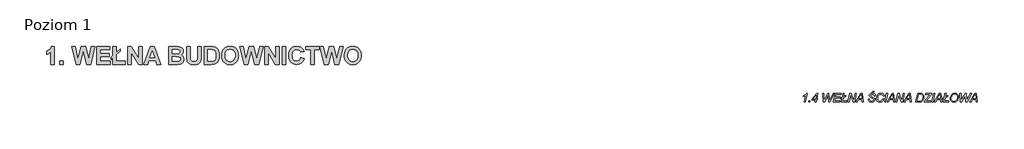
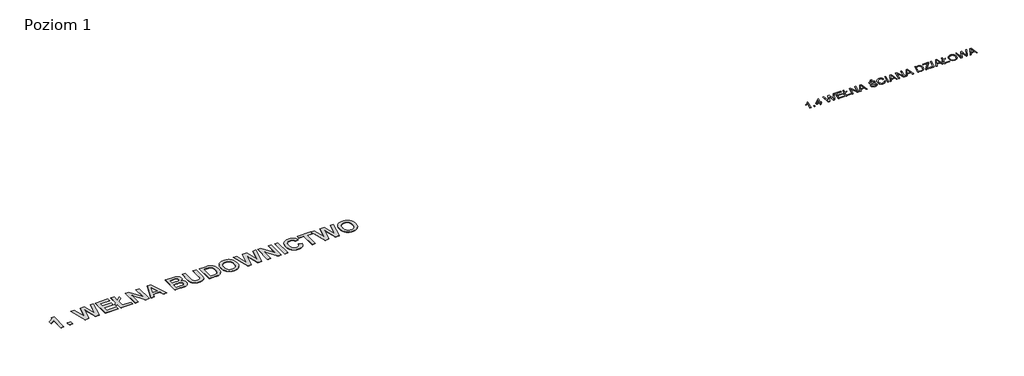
# One storey, incomplete: 2 proxies.
"""IFC4 building model written with IfcOpenShell, lengths in millimetres."""

import ifcopenshell
import ifcopenshell.guid

model = None  # the IFC model being written
_history = None  # IfcOwnerHistory: only IFC2X3 demands one
_inside = {}  # id of a spatial element -> (the spatial element, [elements in it])
_under = {}  # id of a project, library or spatial element -> (it, [spatial elements below it])
_declared = {}  # id of a project -> (the project, [libraries it declares])
_typed = {}  # id of a type object -> (the type object, [elements of that type])
_made_of = {}  # id of a material, layer set ... -> (it, [elements and type objects made of it])


def new_model(schema):
    """Start an empty IFC model of exactly this schema.

    Asked for "IFC4X3", IfcOpenShell would pick the latest addendum, in which some entities
    have other attributes; the version numbers below select the first issue.
    IFC2X3 requires an IfcOwnerHistory on every rooted entity: one is made here for all.
    """
    global model, _history
    if schema == "IFC4X3":
        model = ifcopenshell.file(schema_version=(4, 3, 0, 0))
    else:
        model = ifcopenshell.file(schema=schema)
    _inside.clear()
    _under.clear()
    _declared.clear()
    _typed.clear()
    _made_of.clear()
    _history = None
    if model.schema == "IFC2X3":
        org = make("IfcOrganization", Name="unknown")
        user = make(
            "IfcPersonAndOrganization",
            ThePerson=make("IfcPerson", FamilyName="unknown"),
            TheOrganization=org,
        )
        app = make(
            "IfcApplication",
            ApplicationDeveloper=org,
            Version="unknown",
            ApplicationFullName="unknown",
            ApplicationIdentifier="unknown",
        )
        _history = make(
            "IfcOwnerHistory",
            OwningUser=user,
            OwningApplication=app,
            ChangeAction="ADDED",
            CreationDate=0,
        )
    return model


def make(cls, **values):
    """One entity of the class cls with the attributes given. An attribute that is None is left unset."""
    return model.create_entity(
        cls, **{name: value for name, value in values.items() if value is not None}
    )


def rooted(cls, **values):
    """An entity with a GlobalId (a new one), such as an element, a storey or a relation."""
    return make(cls, GlobalId=ifcopenshell.guid.new(), OwnerHistory=_history, **values)


def si_unit(unit_type, name, prefix=None):
    """IfcSIUnit, for example si_unit("LENGTHUNIT", "METRE", prefix="MILLI")."""
    return make("IfcSIUnit", UnitType=unit_type, Prefix=prefix, Name=name)


def assignment(units):
    """IfcUnitAssignment: the units of a project."""
    return None if units is None else make("IfcUnitAssignment", Units=units)


def point(xyz):
    """IfcCartesianPoint."""
    return None if xyz is None else make("IfcCartesianPoint", Coordinates=xyz)


def direction(xyz):
    """IfcDirection."""
    return None if xyz is None else make("IfcDirection", DirectionRatios=xyz)


def frame(location, z_axis=None, x_axis=None):
    """IfcAxis2Placement3D, a coordinate frame: its origin and axes. An axis left out is left unset."""
    return make(
        "IfcAxis2Placement3D",
        Location=point(location),
        Axis=direction(z_axis),
        RefDirection=direction(x_axis),
    )


def origin():
    """The frame at (0, 0, 0) with its axes left unset."""
    return frame((0.0, 0.0, 0.0))


def origin_with_axes():
    """The frame at (0, 0, 0) with the z axis (0, 0, 1) and the x axis (1, 0, 0) written out."""
    return frame((0.0, 0.0, 0.0), z_axis=(0.0, 0.0, 1.0), x_axis=(1.0, 0.0, 0.0))


def place(relative_to, where):
    """IfcLocalPlacement: puts the frame where relative to a parent placement (None: the world)."""
    return make(
        "IfcLocalPlacement", PlacementRelTo=relative_to, RelativePlacement=where
    )


def context(
    kind, dimensions, precision=None, world=None, true_north=None, identifier=None
):
    """IfcGeometricRepresentationContext, for example the 3D "Model" context."""
    return make(
        "IfcGeometricRepresentationContext",
        ContextIdentifier=identifier,
        ContextType=kind,
        CoordinateSpaceDimension=dimensions,
        Precision=precision,
        WorldCoordinateSystem=world,
        TrueNorth=true_north,
    )


def project(units=None, contexts=None):
    """IfcProject with its units and contexts."""
    return rooted(
        "IfcProject",
        Name="project",
        RepresentationContexts=contexts,
        UnitsInContext=assignment(units),
    )


def spatial(cls, under=None, at=None, **own):
    """A site, building, storey or space (cls), placed at a placement, below another one or the project."""
    s = rooted(cls, ObjectPlacement=at, **own)
    if under is not None:
        _under.setdefault(under.id(), (under, []))[1].append(s)
    return s


def polyline(points):
    """IfcPolyline through the points."""
    return make("IfcPolyline", Points=[point(p) for p in points])


def outline(outer, holes=None, kind="AREA"):
    """IfcArbitraryClosedProfileDef: a profile drawn as a closed curve; with holes, ...WithVoids."""
    if holes is None:
        return make("IfcArbitraryClosedProfileDef", ProfileType=kind, OuterCurve=outer)
    return make(
        "IfcArbitraryProfileDefWithVoids",
        ProfileType=kind,
        OuterCurve=outer,
        InnerCurves=holes,
    )


def extrude(swept, where, along, depth):
    """IfcExtrudedAreaSolid: the profile swept, set in the frame where, extruded along a direction by depth."""
    return make(
        "IfcExtrudedAreaSolid",
        SweptArea=swept,
        Position=where,
        ExtrudedDirection=direction(along),
        Depth=depth,
    )


def shape(context_of_items, identifier, shape_type, items):
    """IfcShapeRepresentation: the items that make up one representation, for example the "Body"."""
    return make(
        "IfcShapeRepresentation",
        ContextOfItems=context_of_items,
        RepresentationIdentifier=identifier,
        RepresentationType=shape_type,
        Items=items,
    )


def made_of(thing, what):
    """Note that an element or type object is made of a material, layer set ...; save() writes the relation."""
    if what is not None:
        _made_of.setdefault(what.id(), (what, []))[1].append(thing)
    return thing


def element(
    cls,
    number,
    at=None,
    inside=None,
    cuts=None,
    type_object=None,
    material=None,
    context=None,
    identifier="Body",
    shape_type=None,
    held_by="IfcProductDefinitionShape",
    body=None,
    shapes=None,
    **own,
):
    """One element of the class cls, such as IfcWall. Its Tag is "e" and its number.

    at: its placement. inside: the storey or other place that contains it. cuts: it is an
    opening in that element (IfcRelVoidsElement). A single representation is given by context,
    identifier, shape_type and body (its items); several are given by shapes. held_by: the class
    of the entity that holds the representations. save() writes the other relations.
    """
    e = rooted(cls, Tag="e%d" % number, ObjectPlacement=at, **own)
    if body is not None:
        shapes = [shape(context, identifier, shape_type, body)]
    if shapes is not None:
        e.Representation = make(held_by, Representations=shapes)
    if inside is not None:
        _inside.setdefault(inside.id(), (inside, []))[1].append(e)
    if cuts is not None:
        rooted(
            "IfcRelVoidsElement", RelatingBuildingElement=cuts, RelatedOpeningElement=e
        )
    if type_object is not None:
        _typed.setdefault(type_object.id(), (type_object, []))[1].append(e)
    return made_of(e, material)


def aggregate(whole, parts):
    """IfcRelAggregates: a whole, such as a stair, and the parts it consists of."""
    return rooted("IfcRelAggregates", RelatingObject=whole, RelatedObjects=parts)


def save(model, path):
    """Write the relations noted so far, then the file.

    IfcRelAggregates (storeys below a building ...), IfcRelContainedInSpatialStructure (elements
    in a storey), IfcRelDefinesByType, IfcRelAssociatesMaterial and IfcRelDeclares: one each for
    every whole, place, type object, material and project.
    """
    for whole, parts in _under.values():
        aggregate(whole, parts)
    for where, things in _inside.values():
        rooted(
            "IfcRelContainedInSpatialStructure",
            RelatedElements=things,
            RelatingStructure=where,
        )
    for kind, things in _typed.values():
        rooted("IfcRelDefinesByType", RelatedObjects=things, RelatingType=kind)
    for what, things in _made_of.values():
        rooted("IfcRelAssociatesMaterial", RelatedObjects=things, RelatingMaterial=what)
    for by, libraries in _declared.values():
        rooted("IfcRelDeclares", RelatingContext=by, RelatedDefinitions=libraries)
    model.write(path)


model = new_model("IFC4")

# Units and contexts
model_context = context("Model", 3, world=origin())
ifc_project = project(units=[si_unit("LENGTHUNIT", "METRE", prefix="MILLI")], contexts=[model_context])

# Site, building, storey
site = spatial("IfcSite", under=ifc_project)
building = spatial("IfcBuilding", under=site)
storey = spatial("IfcBuildingStorey", under=building, Name="Poziom 1", Elevation=0.0)

# Proxies
placement = place(None, origin())
element("IfcBuildingElementProxy", 1, Name="400 mm Arial", ObjectType="400 mm Arial", at=placement, inside=storey, context=model_context, shape_type="SweptSolid", body=[
    extrude(outline(polyline([(18288.1068831, 15251.1796723), (18349.3190043, 15546.3368692), (18327.350787, 15531.4283702), (18301.3296577, 15518.0740851), (18237.1286634, 15496.0281571), (18246.1191937, 15538.8766419), (18281.8302496, 15555.5067319), (18317.0391748, 15576.5125321), (18369.9780952, 15617.0177404), (18390.7328301, 15642.937248), (18419.330368, 15642.937248), (18337.9373755, 15251.1796723), (18288.1068831, 15251.1796723)])), origin_with_axes(), (0.0, 0.0, 1.0), 5.0),
    extrude(outline(polyline([(18484.7508225, 15251.1796723), (18496.2280952, 15300.1493692), (18545.1977922, 15300.1493692), (18534.6769589, 15251.1796723), (18484.7508225, 15251.1796723)])), origin_with_axes(), (0.0, 0.0, 1.0), 5.0),
    extrude(outline(polyline([(18771.6826407, 15251.1796723), (18791.4809361, 15349.1190662), (18630.8947619, 15349.1190662), (18643.1371861, 15402.8709601), (18863.5008225, 15636.8160359), (18899.3672998, 15636.8160359), (18851.0671104, 15398.0887632), (18900.2280952, 15398.0887632), (18887.985671, 15349.1190662), (18841.2157846, 15349.1190662), (18821.4174892, 15251.1796723), (18771.6826407, 15251.1796723)]), holes=[polyline([(18801.3322619, 15398.0887632), (18832.6078301, 15552.936301), (18686.7508225, 15398.0887632), (18801.3322619, 15398.0887632)])]), origin_with_axes(), (0.0, 0.0, 1.0), 5.0),
    extrude(outline(polyline([(19145.0765801, 15251.1796723), (19120.5917316, 15642.937248), (19169.5614286, 15642.937248), (19180.7517695, 15447.8236116), (19185.0557467, 15372.9344071), (19186.3947619, 15348.9277783), (19190.985671, 15318.5130056), (19236.4165422, 15418.0783465), (19351.1892695, 15642.937248), (19408.2887013, 15642.937248), (19425.6002543, 15413.2961495), (19435.8341558, 15318.5130056), (19451.328474, 15356.1010738), (19481.9345346, 15417.1219071), (19595.5595346, 15642.937248), (19650.0765801, 15642.937248), (19446.1637013, 15251.1796723), (19389.9250649, 15251.1796723), (19371.3701407, 15487.5158465), (19362.3796104, 15563.3614904), (19336.4601028, 15506.3577026), (19206.0017695, 15251.1796723), (19145.0765801, 15251.1796723)])), origin_with_axes(), (0.0, 0.0, 1.0), 5.0),
    extrude(outline(polyline([(19604.1674892, 15251.1796723), (19683.7432467, 15642.937248), (19959.1977922, 15642.937248), (19952.9809361, 15600.0887632), (19724.7744967, 15600.0887632), (19699.9070725, 15477.6645207), (19922.4705195, 15477.6645207), (19910.2280952, 15434.8160359), (19691.203474, 15434.8160359), (19662.6059361, 15294.0281571), (19908.1239286, 15294.0281571), (19898.9421104, 15251.1796723), (19604.1674892, 15251.1796723)])), origin_with_axes(), (0.0, 0.0, 1.0), 5.0),
    extrude(outline(polyline([(19998.3161634, 15413.7743692), (19946.955368, 15385.8463389), (19959.1977922, 15428.6948238), (20006.6371861, 15454.5186874), (20044.8947619, 15642.937248), (20094.6296104, 15642.937248), (20062.4932467, 15484.7421723), (20173.4402164, 15544.9978541), (20161.1977922, 15502.1493692), (20054.267868, 15444.093498), (20023.7574513, 15294.0281571), (20228.5311255, 15294.0281571), (20216.2887013, 15251.1796723), (19965.3190043, 15251.1796723), (19998.3161634, 15413.7743692)])), origin_with_axes(), (0.0, 0.0, 1.0), 5.0),
    extrude(outline(polyline([(20265.2583983, 15251.1796723), (20344.8341558, 15642.937248), (20412.1674892, 15642.937248), (20471.4667316, 15491.3416041), (20514.5065043, 15374.5603541), (20535.6438149, 15300.1493692), (20557.2593452, 15411.2876268), (20602.3076407, 15642.937248), (20651.9468452, 15642.937248), (20575.8142695, 15251.1796723), (20503.5074513, 15251.1796723), (20422.4970346, 15476.2298616), (20382.9960877, 15585.7421723), (20363.3890801, 15489.0461495), (20314.9932467, 15251.1796723), (20265.2583983, 15251.1796723)])), origin_with_axes(), (0.0, 0.0, 1.0), 5.0),
    extrude(outline(polyline([(20624.2101028, 15251.1796723), (20843.4260119, 15642.937248), (20905.4032846, 15642.937248), (20967.0936255, 15251.1796723), (20917.6457089, 15251.1796723), (20901.9601028, 15361.3614904), (20738.8871861, 15361.3614904), (20679.109724, 15251.1796723), (20624.2101028, 15251.1796723)]), holes=[polyline([(20764.2328301, 15404.2099753), (20895.9345346, 15404.2099753), (20882.1618073, 15502.1493692), (20868.1977922, 15600.0887632), (20825.0623755, 15520.5130056), (20764.2328301, 15404.2099753)])]), origin_with_axes(), (0.0, 0.0, 1.0), 5.0),
    extrude(outline(polyline([(21189.5614286, 15379.7251268), (21238.5311255, 15385.8463389), (21237.9572619, 15371.6910359), (21240.5396483, 15349.2386211), (21248.2868073, 15328.7469071), (21261.9878017, 15311.4473096), (21282.4316937, 15298.5712442), (21308.4707562, 15290.5730198), (21338.9572619, 15287.906945), (21380.0004674, 15293.0717177), (21396.3705254, 15299.5276836), (21409.9728869, 15308.5660359), (21428.3006568, 15330.6836969), (21434.4099134, 15355.718498), (21431.2058414, 15373.3887158), (21421.5936255, 15389.4808086), (21397.3000649, 15407.0792935), (21350.4345346, 15430.0338389), (21288.8398377, 15460.6398995), (21266.4113339, 15478.7166041), (21250.7735498, 15498.3236116), (21241.5917316, 15520.1543408), (21238.5311255, 15544.9022101), (21242.5123045, 15573.499748), (21254.4558414, 15599.2279677), (21274.062849, 15620.6402546), (21301.0344399, 15636.2899942), (21333.6609788, 15645.8663437), (21370.2328301, 15649.0584601), (21412.6270062, 15644.9577262), (21447.8000649, 15632.6555245), (21475.0346767, 15613.5147812), (21493.6135119, 15588.8984223), (21504.3017221, 15562.1659412), (21507.8644589, 15536.6768313), (21507.8644589, 15528.4514526), (21458.8947619, 15524.3387632), (21456.1210877, 15551.405998), (21449.5575223, 15567.1752925), (21440.1963717, 15580.2426457), (21427.4279058, 15590.811301), (21410.6423945, 15599.0845018), (21390.7364996, 15604.4286069), (21368.6068831, 15606.2099753), (21332.2143642, 15601.3799563), (21317.42542, 15595.3424327), (21304.9080195, 15586.8898995), (21291.8526217, 15569.7457234), (21287.5008225, 15547.7715283), (21289.3061019, 15534.094445), (21294.7219399, 15521.9476647), (21304.848242, 15510.6616798), (21320.7849134, 15499.5669829), (21384.3881331, 15468.8652783), (21440.6267695, 15439.5982329), (21458.8230289, 15423.9604488), (21472.2849134, 15405.3577026), (21480.6059361, 15383.8856382), (21483.3796104, 15359.6398995), (21478.6691464, 15329.1892603), (21464.5377543, 15301.1536306), (21442.097295, 15277.3741562), (21412.4596293, 15259.6919829), (21376.8203064, 15248.7168408), (21336.3748755, 15245.0584601), (21305.4908497, 15246.8876505), (21277.5897193, 15252.3752215), (21252.6714842, 15261.5211732), (21230.7361445, 15274.3255056), (21212.8298057, 15291.888124), (21199.9985734, 15315.3089336), (21192.2424477, 15344.5879346), (21189.5614286, 15379.7251268)])), origin_with_axes(), (0.0, 0.0, 1.0), 5.0),
    extrude(outline(polyline([(21342.5917316, 15667.4220965), (21397.6826407, 15740.8766419), (21458.8947619, 15740.8766419), (21385.4402164, 15667.4220965), (21342.5917316, 15667.4220965)])), origin_with_axes(), (0.0, 0.0, 1.0), 5.0),
    extrude(outline(polyline([(21838.4099134, 15391.967551), (21887.3796104, 15385.8463389), (21873.7443713, 15353.198878), (21857.3235024, 15324.7896391), (21838.1170038, 15300.6186223), (21816.1248755, 15280.6858276), (21792.0226028, 15265.0988543), (21766.485671, 15253.965302), (21739.5140801, 15247.2851706), (21711.1078301, 15245.0584601), (21677.4172524, 15247.7723569), (21647.4089664, 15255.9140473), (21621.0829721, 15269.4835312), (21598.4392695, 15288.4808086), (21580.2370323, 15312.5412371), (21567.2354342, 15341.3001741), (21559.4344754, 15374.7576197), (21556.8341558, 15412.9135738), (21560.7974016, 15463.4195515), (21572.6871388, 15509.3465757), (21592.5033675, 15550.6946462), (21620.2460877, 15587.4637632), (21650.1766629, 15614.4114431), (21683.5384645, 15633.6597859), (21720.3314925, 15645.2087916), (21760.5557467, 15649.0584601), (21790.1186906, 15646.9841822), (21816.7346056, 15640.7613484), (21840.4034918, 15630.3899587), (21861.125349, 15615.8700132), (21878.3502247, 15597.8471083), (21891.5281663, 15576.9668408), (21900.6591736, 15553.2292106), (21905.7432467, 15526.6342177), (21856.7735498, 15520.5130056), (21845.1528111, 15558.1847622), (21836.1503253, 15572.9228955), (21825.0197619, 15584.9291988), (21811.9404532, 15594.2395385), (21797.0917316, 15600.8897812), (21762.0860498, 15606.2099753), (21727.6123874, 15602.2228186), (21696.5938623, 15590.2613484), (21669.0304745, 15570.3255648), (21644.922224, 15542.4154677), (21627.8079366, 15513.6326197), (21615.5834456, 15482.2793408), (21608.248751, 15448.3556311), (21605.8038528, 15411.8614904), (21607.6928206, 15383.4701848), (21613.359724, 15358.6475937), (21622.804563, 15337.393717), (21636.0273377, 15319.7085548), (21652.2808296, 15305.7953505), (21670.8178206, 15295.8573474), (21691.6383107, 15289.8945456), (21714.7422998, 15287.906945), (21734.9560486, 15289.6046249), (21754.1834693, 15294.6976647), (21772.4245618, 15303.1860643), (21789.6793263, 15315.0698238), (21805.2961883, 15330.0620113), (21818.6235734, 15347.875695), (21829.6614818, 15368.5108749), (21838.4099134, 15391.967551)])), origin_with_axes(), (0.0, 0.0, 1.0), 5.0),
    extrude(outline(polyline([(21930.2280952, 15251.1796723), (22009.8038528, 15642.937248), (22059.5387013, 15642.937248), (21979.9629437, 15251.1796723), (21930.2280952, 15251.1796723)])), origin_with_axes(), (0.0, 0.0, 1.0), 5.0),
    extrude(outline(polyline([(22044.3313149, 15251.1796723), (22263.547224, 15642.937248), (22325.5244967, 15642.937248), (22387.2148377, 15251.1796723), (22337.766921, 15251.1796723), (22322.0813149, 15361.3614904), (22159.0083983, 15361.3614904), (22099.2309361, 15251.1796723), (22044.3313149, 15251.1796723)]), holes=[polyline([(22184.3540422, 15404.2099753), (22316.0557467, 15404.2099753), (22302.2830195, 15502.1493692), (22288.3190043, 15600.0887632), (22245.1835877, 15520.5130056), (22184.3540422, 15404.2099753)])]), origin_with_axes(), (0.0, 0.0, 1.0), 5.0),
    extrude(outline(polyline([(22438.2887013, 15251.1796723), (22517.8644589, 15642.937248), (22585.1977922, 15642.937248), (22644.4970346, 15491.3416041), (22687.5368073, 15374.5603541), (22708.674118, 15300.1493692), (22730.2896483, 15411.2876268), (22775.3379437, 15642.937248), (22824.9771483, 15642.937248), (22748.8445725, 15251.1796723), (22676.5377543, 15251.1796723), (22595.5273377, 15476.2298616), (22556.0263907, 15585.7421723), (22536.4193831, 15489.0461495), (22488.0235498, 15251.1796723), (22438.2887013, 15251.1796723)])), origin_with_axes(), (0.0, 0.0, 1.0), 5.0),
    extrude(outline(polyline([(22797.2404058, 15251.1796723), (23016.4563149, 15642.937248), (23078.4335877, 15642.937248), (23140.1239286, 15251.1796723), (23090.6760119, 15251.1796723), (23074.9904058, 15361.3614904), (22911.9174892, 15361.3614904), (22852.140027, 15251.1796723), (22797.2404058, 15251.1796723)]), holes=[polyline([(22937.2631331, 15404.2099753), (23068.9648377, 15404.2099753), (23055.1921104, 15502.1493692), (23041.2280952, 15600.0887632), (22998.0926786, 15520.5130056), (22937.2631331, 15404.2099753)])]), origin_with_axes(), (0.0, 0.0, 1.0), 5.0),
    extrude(outline(polyline([(23344.2280952, 15251.1796723), (23423.8038528, 15642.937248), (23541.0633225, 15642.937248), (23578.3405479, 15641.406945), (23605.6229816, 15636.8160359), (23635.1410924, 15625.2670302), (23659.9965611, 15607.2620586), (23679.7470346, 15583.3869402), (23693.9501596, 15554.2274942), (23702.5222477, 15520.4771391), (23705.3796104, 15482.8292935), (23701.8407846, 15437.6733986), (23691.2243073, 15396.701926), (23674.9050602, 15360.1539857), (23654.2579248, 15328.2686874), (23630.9088481, 15301.9307376), (23606.483777, 15282.0248427), (23579.2252543, 15267.4989194), (23547.3758225, 15257.3008844), (23518.4913528, 15252.7099753), (23483.6769589, 15251.1796723), (23344.2280952, 15251.1796723)]), holes=[polyline([(23402.6665422, 15294.0281571), (23465.5046104, 15294.0281571), (23505.627243, 15295.5584601), (23541.0633225, 15300.1493692), (23560.1442884, 15306.1988484), (23576.2602922, 15314.5916041), (23594.6000176, 15328.7469071), (23611.1703301, 15346.9192556), (23629.6774323, 15375.385283), (23644.0718452, 15407.6053351), (23653.3253964, 15444.0337205), (23656.4099134, 15485.124748), (23652.1657136, 15527.9134554), (23639.4331142, 15559.4879109), (23620.1249939, 15581.0675747), (23596.1542316, 15593.8719071), (23571.3346293, 15598.5345491), (23535.7072619, 15600.0887632), (23464.8351028, 15600.0887632), (23402.6665422, 15294.0281571)])]), origin_with_axes(), (0.0, 0.0, 1.0), 5.0),
    extrude(outline(polyline([(23723.7432467, 15251.1796723), (23729.8644589, 15287.906945), (23926.6996861, 15522.2345965), (23967.6352922, 15570.7260738), (23992.2157846, 15600.0887632), (23957.1144589, 15600.0887632), (23944.1068831, 15600.0887632), (23928.421277, 15600.0887632), (23913.0226028, 15600.0887632), (23779.7905952, 15600.0887632), (23789.0680573, 15642.937248), (24060.4099134, 15642.937248), (24055.3407846, 15601.905998), (23844.828474, 15351.4145207), (23796.6239286, 15294.0281571), (23811.5443831, 15294.0281571), (24021.1958983, 15294.0281571), (24011.9184361, 15251.1796723), (23723.7432467, 15251.1796723)])), origin_with_axes(), (0.0, 0.0, 1.0), 5.0),
    extrude(outline(polyline([(24072.6523377, 15251.1796723), (24152.2280952, 15642.937248), (24201.9629437, 15642.937248), (24122.3871861, 15251.1796723), (24072.6523377, 15251.1796723)])), origin_with_axes(), (0.0, 0.0, 1.0), 5.0),
    extrude(outline(polyline([(24186.7555573, 15251.1796723), (24405.9714664, 15642.937248), (24467.9487392, 15642.937248), (24529.6390801, 15251.1796723), (24480.1911634, 15251.1796723), (24464.5055573, 15361.3614904), (24301.4326407, 15361.3614904), (24241.6551786, 15251.1796723), (24186.7555573, 15251.1796723)]), holes=[polyline([(24326.7782846, 15404.2099753), (24458.4799892, 15404.2099753), (24444.7072619, 15502.1493692), (24430.7432467, 15600.0887632), (24387.6078301, 15520.5130056), (24326.7782846, 15404.2099753)])]), origin_with_axes(), (0.0, 0.0, 1.0), 5.0),
    extrude(outline(polyline([(24613.7101028, 15413.7743692), (24562.3493073, 15385.8463389), (24574.5917316, 15428.6948238), (24622.0311255, 15454.5186874), (24660.2887013, 15642.937248), (24710.0235498, 15642.937248), (24677.8871861, 15484.7421723), (24788.8341558, 15544.9978541), (24776.5917316, 15502.1493692), (24669.6618073, 15444.093498), (24639.1513907, 15294.0281571), (24843.9250649, 15294.0281571), (24831.6826407, 15251.1796723), (24580.7129437, 15251.1796723), (24613.7101028, 15413.7743692)])), origin_with_axes(), (0.0, 0.0, 1.0), 5.0),
    extrude(outline(polyline([(24905.1371861, 15415.3046723), (24908.8643109, 15465.0783761), (24920.0456852, 15509.8606618), (24938.681309, 15549.6515295), (24964.7711823, 15584.4509791), (24996.1752721, 15612.716752), (25030.753545, 15632.9065899), (25068.5060012, 15645.0204926), (25109.4326407, 15649.0584601), (25143.8226146, 15646.0845314), (25174.8770062, 15637.1627452), (25202.5958154, 15622.2931015), (25226.9790422, 15601.4756003), (25246.8550484, 15575.6607033), (25261.0521956, 15545.7988721), (25269.570484, 15511.8901067), (25272.4099134, 15473.9344071), (25266.695188, 15418.9869639), (25249.5510119, 15368.1522101), (25230.1950697, 15334.1866562), (25206.3677733, 15305.170676), (25179.3842269, 15281.6781334), (25150.5595346, 15264.2828919), (25109.8630384, 15249.8645681), (25066.7754437, 15245.0584601), (25022.5401217, 15250.6536306), (24982.4174892, 15267.4391419), (24948.9660214, 15294.2553115), (24924.7441937, 15329.9424563), (24910.038938, 15371.3443266), (24905.1371861, 15415.3046723)]), holes=[polyline([(24954.1068831, 15412.7222859), (24957.6815753, 15379.6175274), (24968.405652, 15349.358176), (24986.2193358, 15323.6538673), (25011.062849, 15304.2142366), (25040.1505621, 15291.9837679), (25070.6968452, 15287.906945), (25100.191045, 15291.4816372), (25128.2266748, 15302.2057139), (25154.0864049, 15319.3140236), (25177.0529058, 15342.0414147), (25196.3012486, 15370.5074421), (25211.0065043, 15404.8316609), (25220.3317884, 15441.809999), (25223.4402164, 15478.2383844), (25221.3928384, 15505.9781157), (25215.2507041, 15530.7588626), (25205.0138137, 15552.5806251), (25190.6821672, 15571.4434033), (25173.3437143, 15586.6537785), (25154.0864049, 15597.5183323), (25132.9102389, 15604.0370645), (25109.8152164, 15606.2099753), (25079.9264854, 15602.9281926), (25051.8549892, 15593.0828446), (25025.6007278, 15576.6739312), (25001.1637013, 15553.7014526), (24980.5763433, 15525.1995586), (24965.8710877, 15492.2023995), (24957.0479342, 15454.7099753), (24954.1068831, 15412.7222859)])]), origin_with_axes(), (0.0, 0.0, 1.0), 5.0),
    extrude(outline(polyline([(25364.2280952, 15251.1796723), (25339.7432467, 15642.937248), (25388.7129437, 15642.937248), (25399.9032846, 15447.8236116), (25404.2072619, 15372.9344071), (25405.546277, 15348.9277783), (25410.1371861, 15318.5130056), (25455.5680573, 15418.0783465), (25570.3407846, 15642.937248), (25627.4402164, 15642.937248), (25644.7517695, 15413.2961495), (25654.985671, 15318.5130056), (25670.4799892, 15356.1010738), (25701.0860498, 15417.1219071), (25814.7110498, 15642.937248), (25869.2280952, 15642.937248), (25665.3152164, 15251.1796723), (25609.0765801, 15251.1796723), (25590.5216558, 15487.5158465), (25581.5311255, 15563.3614904), (25555.611618, 15506.3577026), (25425.1532846, 15251.1796723), (25364.2280952, 15251.1796723)])), origin_with_axes(), (0.0, 0.0, 1.0), 5.0),
    extrude(outline(polyline([(25790.5131331, 15251.1796723), (26009.7290422, 15642.937248), (26071.7063149, 15642.937248), (26133.3966558, 15251.1796723), (26083.9487392, 15251.1796723), (26068.2631331, 15361.3614904), (25905.1902164, 15361.3614904), (25845.4127543, 15251.1796723), (25790.5131331, 15251.1796723)]), holes=[polyline([(25930.5358604, 15404.2099753), (26062.2375649, 15404.2099753), (26048.4648377, 15502.1493692), (26034.5008225, 15600.0887632), (25991.3654058, 15520.5130056), (25930.5358604, 15404.2099753)])]), origin_with_axes(), (0.0, 0.0, 1.0), 5.0),
])
element("IfcBuildingElementProxy", 2, Name="800", ObjectType="800", at=placement, inside=storey, context=model_context, shape_type="SweptSolid", body=[
    extrude(outline(polyline([(-15688.5553841, 16963.7896585), (-15841.5553841, 16963.7896585), (-15841.5553841, 17537.938096), (-15883.9142708, 17497.5215921), (-15929.9088997, 17462.7330179), (-15979.5392708, 17433.5723734), (-16032.8053841, 17410.0396585), (-16032.8053841, 17563.0396585), (-16002.7856087, 17575.1235208), (-15971.4958138, 17591.6524515), (-15905.1061654, 17638.0455179), (-15873.3432259, 17666.8388529), (-15846.984095, 17697.9356546), (-15826.0287728, 17731.3359232), (-15810.4772591, 17767.0396585), (-15688.5553841, 17767.0396585), (-15688.5553841, 16963.7896585)])), origin_with_axes(), (0.0, 0.0, 1.0), 5.0),
    extrude(outline(polyline([(-15433.5553841, 16963.7896585), (-15433.5553841, 17116.7896585), (-15280.5553841, 17116.7896585), (-15280.5553841, 16963.7896585), (-15433.5553841, 16963.7896585)])), origin_with_axes(), (0.0, 0.0, 1.0), 5.0),
    extrude(outline(polyline([(-14695.8483529, 16963.7896585), (-14898.0553841, 17767.0396585), (-14741.0710091, 17767.0396585), (-14611.1803841, 17215.203721), (-14471.5280404, 17767.0396585), (-14265.7350716, 17767.0396585), (-14126.6803841, 17206.0396585), (-13996.7897591, 17767.0396585), (-13839.8053841, 17767.0396585), (-14039.0241341, 16963.7896585), (-14220.1139779, 16963.7896585), (-14368.9303841, 17564.234971), (-14520.7350716, 16963.7896585), (-14695.8483529, 16963.7896585)])), origin_with_axes(), (0.0, 0.0, 1.0), 5.0),
    extrude(outline(polyline([(-13763.3053841, 16963.7896585), (-13763.3053841, 17767.0396585), (-13164.0553841, 17767.0396585), (-13164.0553841, 17626.7896585), (-13610.3053841, 17626.7896585), (-13610.3053841, 17448.2896585), (-13189.5553841, 17448.2896585), (-13189.5553841, 17308.0396585), (-13610.3053841, 17308.0396585), (-13610.3053841, 17104.0396585), (-13151.3053841, 17104.0396585), (-13151.3053841, 16963.7896585), (-13763.3053841, 16963.7896585)])), origin_with_axes(), (0.0, 0.0, 1.0), 5.0),
    extrude(outline(polyline([(-13023.8053841, 17367.406846), (-13023.8053841, 17767.0396585), (-12870.8053841, 17767.0396585), (-12870.8053841, 17501.8795023), (-12692.3053841, 17658.6646585), (-12692.3053841, 17561.047471), (-12870.8053841, 17404.2623148), (-12870.8053841, 17104.0396585), (-12462.8053841, 17104.0396585), (-12462.8053841, 16963.7896585), (-13023.8053841, 16963.7896585), (-13023.8053841, 17269.7896585), (-13113.0553841, 17191.297471), (-13113.0553841, 17288.9146585), (-13023.8053841, 17367.406846)])), origin_with_axes(), (0.0, 0.0, 1.0), 5.0),
    extrude(outline(polyline([(-12348.0553841, 16963.7896585), (-12348.0553841, 17767.0396585), (-12187.6842904, 17767.0396585), (-11850.8053841, 17226.359971), (-11850.8053841, 17767.0396585), (-11697.8053841, 17767.0396585), (-11697.8053841, 16963.7896585), (-11863.1569466, 16963.7896585), (-12195.0553841, 17496.500596), (-12195.0553841, 16963.7896585), (-12348.0553841, 16963.7896585)])), origin_with_axes(), (0.0, 0.0, 1.0), 5.0),
    extrude(outline(polyline([(-10869.0553841, 16963.7896585), (-11029.8249154, 16963.7896585), (-11092.7780404, 17142.2896585), (-11396.1881966, 17142.2896585), (-11458.3444466, 16963.7896585), (-11621.3053841, 16963.7896585), (-11328.0553841, 17767.0396585), (-11165.0944466, 17767.0396585), (-10869.0553841, 16963.7896585)]), holes=[polyline([(-11141.7858529, 17282.5396585), (-11245.1803841, 17575.7896585), (-11347.1803841, 17282.5396585), (-11141.7858529, 17282.5396585)])]), origin_with_axes(), (0.0, 0.0, 1.0), 5.0),
    extrude(outline(polyline([(-10486.5553841, 17767.0396585), (-10156.8483529, 17767.0396585), (-10071.4582161, 17765.047471), (-10010.9206185, 17759.0709085), (-9965.3493294, 17746.7442484), (-9924.8581185, 17725.7017679), (-9890.0695443, 17696.1177835), (-9861.6061654, 17658.1666117), (-9850.5370736, 17636.4579935), (-9842.6305794, 17613.4669046), (-9837.8866829, 17589.1933451), (-9836.3053841, 17563.6373148), (-9838.1917366, 17535.9210062), (-9843.8507943, 17509.3502054), (-9853.282557, 17483.9249124), (-9866.4870247, 17459.6451273), (-9882.9287972, 17437.4197855), (-9902.072474, 17418.1578226), (-9923.918055, 17401.8592386), (-9948.4655404, 17388.5240335), (-9917.213099, 17375.9981546), (-9889.7956185, 17359.7369242), (-9866.213099, 17339.7403421), (-9846.4655404, 17316.0084085), (-9830.864222, 17289.2757425), (-9819.7204232, 17260.2769632), (-9813.0341439, 17229.0120707), (-9810.8053841, 17195.4810648), (-9812.4053597, 17168.3810892), (-9817.2052865, 17141.6670999), (-9836.4049935, 17089.3970804), (-9850.3752083, 17064.9429789), (-9866.6862435, 17043.078721), (-9885.338099, 17023.804307), (-9906.3307747, 17007.1197367), (-9929.782557, 16993.2055521), (-9955.8117318, 16982.2422953), (-9984.4182991, 16974.2299662), (-10015.6022591, 16969.1685648), (-10085.0299935, 16965.632432), (-10212.0319466, 16963.7896585), (-10486.5553841, 16963.7896585), (-10486.5553841, 17767.0396585)]), holes=[polyline([(-10333.5553841, 17626.7896585), (-10333.5553841, 17448.2896585), (-10216.8131966, 17448.2896585), (-10087.3210091, 17450.8795023), (-10046.5558724, 17460.1929789), (-10029.8152718, 17468.2488871), (-10015.5026497, 17478.5709085), (-10004.041346, 17490.9349222), (-9995.8547005, 17505.116807), (-9990.9427132, 17521.1165628), (-9989.3053841, 17538.9341898), (-9994.9582161, 17571.2823343), (-10002.0242562, 17584.9723978), (-10011.9167122, 17597.0064554), (-10024.5857796, 17607.1105814), (-10039.9816536, 17615.0108499), (-10078.9538216, 17624.1998148), (-10231.1569466, 17626.7896585), (-10333.5553841, 17626.7896585)]), polyline([(-10333.5553841, 17308.0396585), (-10333.5553841, 17104.0396585), (-10171.7897591, 17104.0396585), (-10094.4928841, 17105.234971), (-10051.8600716, 17108.8209085), (-10016.4489388, 17119.504014), (-9988.3092904, 17139.2017679), (-9977.5888314, 17152.3315287), (-9969.9313607, 17167.5157328), (-9965.3368782, 17184.7543802), (-9963.8053841, 17204.047471), (-9968.5368294, 17235.7232523), (-9982.7311654, 17262.219346), (-10005.8405404, 17282.8882914), (-10037.3171029, 17297.0826273), (-10093.8952279, 17305.3004007), (-10192.3092904, 17308.0396585), (-10333.5553841, 17308.0396585)])]), origin_with_axes(), (0.0, 0.0, 1.0), 5.0),
    extrude(outline(polyline([(-9683.3053841, 17767.0396585), (-9530.3053841, 17767.0396585), (-9530.3053841, 17333.7388773), (-9528.6618294, 17248.672471), (-9523.7311654, 17199.8638773), (-9516.098597, 17176.5615091), (-9504.5563607, 17155.6622171), (-9489.1044564, 17137.1660013), (-9469.7428841, 17121.0728617), (-9446.4716439, 17108.0427103), (-9419.2907357, 17098.7354593), (-9388.2001595, 17093.1511087), (-9353.1999154, 17091.2896585), (-9317.8697152, 17093.0452738), (-9287.1838021, 17098.3121195), (-9261.1421761, 17107.0901957), (-9239.7448372, 17119.3795023), (-9222.5684456, 17134.2275248), (-9209.1896615, 17150.6817484), (-9199.6084847, 17168.7421732), (-9193.8249154, 17188.4087992), (-9187.9977669, 17242.8702249), (-9186.0553841, 17324.375596), (-9186.0553841, 17767.0396585), (-9033.0553841, 17767.0396585), (-9033.0553841, 17345.6920023), (-9036.3922982, 17222.3257914), (-9046.4030404, 17141.4927835), (-9054.4838509, 17112.8613138), (-9065.3786263, 17086.5333109), (-9079.0873665, 17062.5087748), (-9095.6100716, 17040.7877054), (-9115.0525765, 17021.2704935), (-9137.5207161, 17003.8575296), (-9163.0144906, 16988.5488138), (-9191.5338997, 16975.344346), (-9223.8633675, 16964.7110453), (-9260.7873177, 16957.1158304), (-9302.3057503, 16952.5587015), (-9348.4186654, 16951.0396585), (-9403.2660775, 16952.6956644), (-9451.0661263, 16957.663682), (-9491.8188118, 16965.9437113), (-9525.5241341, 16977.5357523), (-9554.1244759, 16991.7798929), (-9579.56222, 17008.016221), (-9601.8373665, 17026.2447367), (-9620.9499154, 17046.4654398), (-9650.0358529, 17089.944932), (-9667.1686654, 17135.516221), (-9679.2712044, 17220.8814554), (-9683.3053841, 17339.1177835), (-9683.3053841, 17767.0396585)])), origin_with_axes(), (0.0, 0.0, 1.0), 5.0),
    extrude(outline(polyline([(-8880.0553841, 17767.0396585), (-8582.6217904, 17767.0396585), (-8493.9694466, 17763.2046976), (-8429.2233529, 17751.6998148), (-8395.0324349, 17739.2299662), (-8363.381556, 17722.738389), (-8334.2707161, 17702.2250833), (-8307.6999154, 17677.6900492), (-8283.9119515, 17649.6500101), (-8263.1496224, 17618.6216898), (-8245.4129281, 17584.6050882), (-8230.7018685, 17547.6002054), (-8219.1534066, 17506.8537455), (-8210.9045052, 17461.6124124), (-8205.9551644, 17411.8762064), (-8204.3053841, 17357.6451273), (-8205.8493294, 17309.8326273), (-8210.4811654, 17265.406846), (-8218.2008919, 17224.3677835), (-8229.0085091, 17186.7154398), (-8245.7677865, 17144.9791117), (-8265.7643685, 17107.4263773), (-8288.9982552, 17074.0572367), (-8315.4694466, 17044.8716898), (-8338.4543099, 17025.472764), (-8365.1745247, 17008.3150492), (-8395.6300911, 16993.3985453), (-8429.8210091, 16980.7232523), (-8492.7243294, 16968.023057), (-8573.8561654, 16963.7896585), (-8880.0553841, 16963.7896585), (-8880.0553841, 17767.0396585)]), holes=[polyline([(-8727.0553841, 17626.7896585), (-8727.0553841, 17104.0396585), (-8596.7663216, 17104.0396585), (-8533.8131966, 17105.9322367), (-8491.1803841, 17111.609971), (-8452.3576302, 17124.5840921), (-8420.756556, 17144.3814554), (-8407.4026741, 17157.8473978), (-8395.331263, 17175.0362406), (-8375.0358529, 17220.5826273), (-8361.7380013, 17283.2369242), (-8357.3053841, 17365.2154398), (-8361.7380013, 17446.0484476), (-8367.2787728, 17478.5086527), (-8375.0358529, 17505.6646585), (-8396.2775521, 17549.2935648), (-8424.5417122, 17582.1646585), (-8460.6252083, 17605.1744242), (-8505.3249154, 17619.219346), (-8559.4626107, 17624.8970804), (-8648.5631966, 17626.7896585), (-8727.0553841, 17626.7896585)])]), origin_with_axes(), (0.0, 0.0, 1.0), 5.0),
    extrude(outline(polyline([(-8102.3053841, 17360.4341898), (-8100.051722, 17419.2286234), (-8093.2907357, 17473.0923929), (-8082.0224251, 17522.0254984), (-8066.2467904, 17566.0279398), (-8034.4464974, 17624.0753031), (-7992.834681, 17675.8970804), (-7944.1007943, 17718.3057718), (-7918.0716195, 17734.7848978), (-7890.9342904, 17748.1138773), (-7852.659388, 17761.9720316), (-7811.5456185, 17771.8707132), (-7767.5929818, 17777.8099222), (-7720.8014779, 17779.7896585), (-7678.3118538, 17778.0729532), (-7638.0011849, 17772.9228373), (-7599.869471, 17764.3393106), (-7563.9167122, 17752.3223734), (-7530.1429085, 17736.8720255), (-7498.5480599, 17717.9882669), (-7469.1321663, 17695.6710978), (-7441.8952279, 17669.9205179), (-7417.3819832, 17641.1131754), (-7396.1371712, 17609.6257181), (-7378.1607918, 17575.4581461), (-7363.452845, 17538.6104593), (-7352.0133309, 17499.0826578), (-7343.8422493, 17456.8747416), (-7338.9396004, 17411.9867105), (-7337.3053841, 17364.4185648), (-7338.9271492, 17317.1819315), (-7343.7924447, 17272.5911722), (-7351.9012703, 17230.646287), (-7363.2536263, 17191.3472757), (-7377.8495125, 17154.6941385), (-7395.688929, 17120.6868753), (-7416.7718758, 17089.3254862), (-7441.0983529, 17060.609971), (-7468.1422982, 17034.9294291), (-7497.3776497, 17012.6729593), (-7528.8044075, 16993.8405619), (-7562.4225716, 16978.4322367), (-7598.2321419, 16966.4479837), (-7636.2331185, 16957.8878031), (-7676.4255013, 16952.7516947), (-7718.8092904, 16951.0396585), (-7761.6599984, 16952.7439127), (-7802.2570443, 16957.8566751), (-7840.6004281, 16966.3779459), (-7876.6901497, 16978.3077249), (-7910.5262093, 16993.6460123), (-7942.1086068, 17012.392808), (-7971.4373421, 17034.5481119), (-7998.5124154, 17060.1119242), (-8022.8388924, 17088.6640177), (-8043.9218392, 17119.7841654), (-8061.7612557, 17153.4723673), (-8076.3571419, 17189.7286234), (-8087.7094979, 17228.5529337), (-8095.8183236, 17269.9452982), (-8100.683619, 17313.9057169), (-8102.3053841, 17360.4341898)]), holes=[polyline([(-7949.3053841, 17366.0123148), (-7945.2400765, 17302.4739847), (-7933.0441536, 17247.1285257), (-7912.7176156, 17199.9759378), (-7884.2604622, 17161.016221), (-7849.5403695, 17130.5108499), (-7810.425013, 17108.7212992), (-7766.9143929, 17095.6475687), (-7719.0085091, 17091.2896585), (-7671.15243, 17095.6164408), (-7627.791224, 17108.5967874), (-7588.9248909, 17130.2306986), (-7554.553431, 17160.5181742), (-7526.4449105, 17199.4592142), (-7506.3673958, 17247.0538187), (-7494.320887, 17303.3019876), (-7490.3053841, 17368.203721), (-7494.2150521, 17432.2027445), (-7505.944056, 17487.5357523), (-7525.4923958, 17534.2027445), (-7552.8600716, 17572.203721), (-7586.7023568, 17601.6631937), (-7625.6745247, 17622.7056742), (-7669.7765755, 17635.3311624), (-7719.0085091, 17639.5396585), (-7768.2902474, 17635.2813578), (-7812.5417122, 17622.5064554), (-7851.7629036, 17601.2149515), (-7885.9538216, 17571.406846), (-7913.6701302, 17533.0198832), (-7933.4674935, 17485.991807), (-7945.3459115, 17430.3226175), (-7949.3053841, 17366.0123148)])]), origin_with_axes(), (0.0, 0.0, 1.0), 5.0),
    extrude(outline(polyline([(-7084.0983529, 16963.7896585), (-7286.3053841, 17767.0396585), (-7129.3210091, 17767.0396585), (-6999.4303841, 17215.203721), (-6859.7780404, 17767.0396585), (-6653.9850716, 17767.0396585), (-6514.9303841, 17206.0396585), (-6385.0397591, 17767.0396585), (-6228.0553841, 17767.0396585), (-6427.2741341, 16963.7896585), (-6608.3639779, 16963.7896585), (-6757.1803841, 17564.234971), (-6908.9850716, 16963.7896585), (-7084.0983529, 16963.7896585)])), origin_with_axes(), (0.0, 0.0, 1.0), 5.0),
    extrude(outline(polyline([(-6151.5553841, 16963.7896585), (-6151.5553841, 17767.0396585), (-5991.1842904, 17767.0396585), (-5654.3053841, 17226.359971), (-5654.3053841, 17767.0396585), (-5501.3053841, 17767.0396585), (-5501.3053841, 16963.7896585), (-5666.6569466, 16963.7896585), (-5998.5553841, 17496.500596), (-5998.5553841, 16963.7896585), (-6151.5553841, 16963.7896585)])), origin_with_axes(), (0.0, 0.0, 1.0), 5.0),
    extrude(outline(polyline([(-5348.3053841, 16963.7896585), (-5348.3053841, 17767.0396585), (-5195.3053841, 17767.0396585), (-5195.3053841, 16963.7896585), (-5348.3053841, 16963.7896585)])), origin_with_axes(), (0.0, 0.0, 1.0), 5.0),
    extrude(outline(polyline([(-4519.5553841, 17269.7896585), (-4366.5553841, 17218.7896585), (-4387.6850228, 17158.29564), (-4414.8161263, 17106.1065531), (-4447.9486947, 17062.2223978), (-4487.0827279, 17026.6431742), (-4532.0563607, 16999.1447611), (-4582.7077279, 16979.5030374), (-4639.0368294, 16967.7180033), (-4701.0436654, 16963.7896585), (-4740.2430672, 16965.467454), (-4777.6557259, 16970.5008402), (-4813.2816414, 16978.8898172), (-4847.1208138, 16990.6343851), (-4879.173243, 17005.7345438), (-4909.438929, 17024.1902933), (-4937.9178719, 17046.0016336), (-4964.6100716, 17071.1685648), (-4988.796473, 17099.2459574), (-5009.7580208, 17129.788682), (-5027.4947152, 17162.7967386), (-5042.006556, 17198.2701273), (-5053.2935433, 17236.208848), (-5061.3556771, 17276.6129007), (-5066.1929574, 17319.4822855), (-5067.8053841, 17364.8170023), (-5066.1789498, 17412.6979837), (-5061.2996468, 17457.8272562), (-5053.1674752, 17500.2048197), (-5041.7824349, 17539.8306742), (-5027.144526, 17576.7048197), (-5009.2537484, 17610.8272562), (-4988.1101021, 17642.1979837), (-4963.7135872, 17670.8170023), (-4936.6649727, 17696.3574686), (-4907.5650277, 17718.4925394), (-4876.413752, 17737.2222147), (-4843.2111458, 17752.5464945), (-4807.9572091, 17764.4653788), (-4770.6519417, 17772.9788675), (-4731.2953438, 17778.0869608), (-4689.8874154, 17779.7896585), (-4619.2643685, 17774.17418), (-4555.6139779, 17757.3277445), (-4526.4035286, 17744.6929178), (-4498.9362435, 17729.2503519), (-4473.2121224, 17711.0000467), (-4449.2311654, 17689.9420023), (-4423.3700814, 17660.5447855), (-4400.9704232, 17625.3453226), (-4382.0321907, 17584.3436136), (-4366.5553841, 17537.5396585), (-4519.5553841, 17512.0396585), (-4529.1988167, 17540.0610208), (-4542.9884896, 17564.957139), (-4560.9244027, 17586.728013), (-4583.006556, 17605.3736429), (-4608.4629769, 17620.3212748), (-4636.5216927, 17630.9981546), (-4667.1827034, 17637.4042826), (-4700.4460091, 17639.5396585), (-4745.9114632, 17635.6611185), (-4786.8820443, 17624.0254984), (-4823.3577523, 17604.6327982), (-4855.3385872, 17577.4830179), (-4881.3553109, 17541.6547708), (-4899.9386849, 17496.2266703), (-4911.0887093, 17441.1987162), (-4914.8053841, 17376.5709085), (-4911.2007699, 17308.1641703), (-4900.3869271, 17250.3658304), (-4882.3638558, 17203.175889), (-4857.131556, 17166.594346), (-4826.1219124, 17139.2266703), (-4790.7668099, 17119.6783304), (-4751.0662484, 17107.9493265), (-4707.0202279, 17104.0396585), (-4674.2300667, 17106.5361185), (-4643.7931771, 17114.0254984), (-4615.7095589, 17126.5077982), (-4589.9792122, 17143.9830179), (-4567.1624398, 17166.8246927), (-4547.8195443, 17195.4063578), (-4531.9505257, 17229.728013), (-4519.5553841, 17269.7896585)])), origin_with_axes(), (0.0, 0.0, 1.0), 5.0),
    extrude(outline(polyline([(-4060.5553841, 16963.7896585), (-4060.5553841, 17626.7896585), (-4290.0553841, 17626.7896585), (-4290.0553841, 17767.0396585), (-3678.0553841, 17767.0396585), (-3678.0553841, 17626.7896585), (-3907.5553841, 17626.7896585), (-3907.5553841, 16963.7896585), (-4060.5553841, 16963.7896585)])), origin_with_axes(), (0.0, 0.0, 1.0), 5.0),
    extrude(outline(polyline([(-3450.3483529, 16963.7896585), (-3652.5553841, 17767.0396585), (-3495.5710091, 17767.0396585), (-3365.6803841, 17215.203721), (-3226.0280404, 17767.0396585), (-3020.2350716, 17767.0396585), (-2881.1803841, 17206.0396585), (-2751.2897591, 17767.0396585), (-2594.3053841, 17767.0396585), (-2793.5241341, 16963.7896585), (-2974.6139779, 16963.7896585), (-3123.4303841, 17564.234971), (-3275.2350716, 16963.7896585), (-3450.3483529, 16963.7896585)])), origin_with_axes(), (0.0, 0.0, 1.0), 5.0),
    extrude(outline(polyline([(-2543.3053841, 17360.4341898), (-2541.051722, 17419.2286234), (-2534.2907357, 17473.0923929), (-2523.0224251, 17522.0254984), (-2507.2467904, 17566.0279398), (-2475.4464974, 17624.0753031), (-2433.834681, 17675.8970804), (-2385.1007943, 17718.3057718), (-2359.0716195, 17734.7848978), (-2331.9342904, 17748.1138773), (-2293.659388, 17761.9720316), (-2252.5456185, 17771.8707132), (-2208.5929818, 17777.8099222), (-2161.8014779, 17779.7896585), (-2119.3118538, 17778.0729532), (-2079.0011849, 17772.9228373), (-2040.869471, 17764.3393106), (-2004.9167122, 17752.3223734), (-1971.1429085, 17736.8720255), (-1939.5480599, 17717.9882669), (-1910.1321663, 17695.6710978), (-1882.8952279, 17669.9205179), (-1858.3819832, 17641.1131754), (-1837.1371712, 17609.6257181), (-1819.1607918, 17575.4581461), (-1804.452845, 17538.6104593), (-1793.0133309, 17499.0826578), (-1784.8422493, 17456.8747416), (-1779.9396004, 17411.9867105), (-1778.3053841, 17364.4185648), (-1779.9271492, 17317.1819315), (-1784.7924447, 17272.5911722), (-1792.9012703, 17230.646287), (-1804.2536263, 17191.3472757), (-1818.8495125, 17154.6941385), (-1836.688929, 17120.6868753), (-1857.7718758, 17089.3254862), (-1882.0983529, 17060.609971), (-1909.1422982, 17034.9294291), (-1938.3776497, 17012.6729593), (-1969.8044075, 16993.8405619), (-2003.4225716, 16978.4322367), (-2039.2321419, 16966.4479837), (-2077.2331185, 16957.8878031), (-2117.4255013, 16952.7516947), (-2159.8092904, 16951.0396585), (-2202.6599984, 16952.7439127), (-2243.2570443, 16957.8566751), (-2281.6004281, 16966.3779459), (-2317.6901497, 16978.3077249), (-2351.5262093, 16993.6460123), (-2383.1086068, 17012.392808), (-2412.4373421, 17034.5481119), (-2439.5124154, 17060.1119242), (-2463.8388924, 17088.6640177), (-2484.9218392, 17119.7841654), (-2502.7612557, 17153.4723673), (-2517.3571419, 17189.7286234), (-2528.7094979, 17228.5529337), (-2536.8183236, 17269.9452982), (-2541.683619, 17313.9057169), (-2543.3053841, 17360.4341898)]), holes=[polyline([(-2390.3053841, 17366.0123148), (-2386.2400765, 17302.4739847), (-2374.0441536, 17247.1285257), (-2353.7176156, 17199.9759378), (-2325.2604622, 17161.016221), (-2290.5403695, 17130.5108499), (-2251.425013, 17108.7212992), (-2207.9143929, 17095.6475687), (-2160.0085091, 17091.2896585), (-2112.15243, 17095.6164408), (-2068.791224, 17108.5967874), (-2029.9248909, 17130.2306986), (-1995.553431, 17160.5181742), (-1967.4449105, 17199.4592142), (-1947.3673958, 17247.0538187), (-1935.320887, 17303.3019876), (-1931.3053841, 17368.203721), (-1935.2150521, 17432.2027445), (-1946.944056, 17487.5357523), (-1966.4923958, 17534.2027445), (-1993.8600716, 17572.203721), (-2027.7023568, 17601.6631937), (-2066.6745247, 17622.7056742), (-2110.7765755, 17635.3311624), (-2160.0085091, 17639.5396585), (-2209.2902474, 17635.2813578), (-2253.5417122, 17622.5064554), (-2292.7629036, 17601.2149515), (-2326.9538216, 17571.406846), (-2354.6701302, 17533.0198832), (-2374.4674935, 17485.991807), (-2386.3459115, 17430.3226175), (-2390.3053841, 17366.0123148)])]), origin_with_axes(), (0.0, 0.0, 1.0), 5.0),
])

save(model, "model.ifc")
